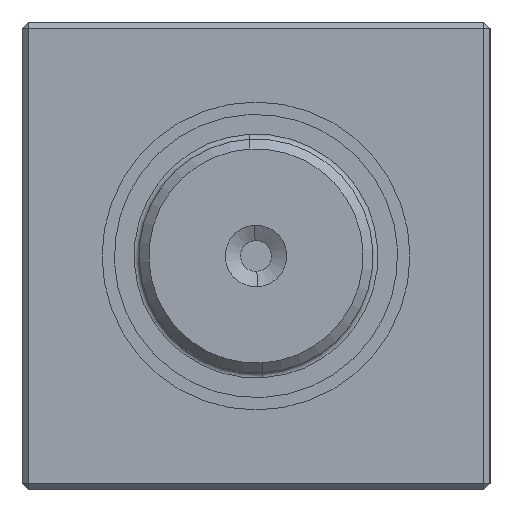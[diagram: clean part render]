
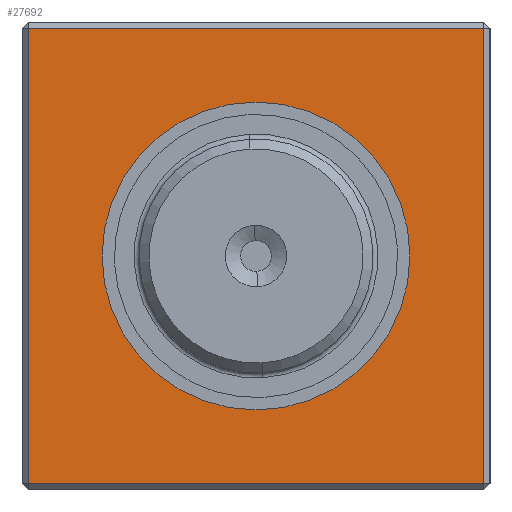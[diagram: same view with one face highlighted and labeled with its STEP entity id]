
A CAD part, left-side view. The second image highlights one B-rep face of the part: STEP entity #27692.
In plain terms, the highlighted planar face has unit normal (-1, 0, 0).
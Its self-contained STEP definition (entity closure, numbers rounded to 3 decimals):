
#2716 = EDGE_LOOP ( 'NONE', ( #27224, #27226, #27225, #27227 ) ) ;
#2717 = EDGE_LOOP ( 'NONE', ( #27229, #27231 ) ) ;
#2995 = VERTEX_POINT ( 'NONE', #29374 ) ;
#2996 = VERTEX_POINT ( 'NONE', #29375 ) ;
#3098 = VERTEX_POINT ( 'NONE', #29477 ) ;
#3099 = VERTEX_POINT ( 'NONE', #29478 ) ;
#3100 = VERTEX_POINT ( 'NONE', #29479 ) ;
#3101 = VERTEX_POINT ( 'NONE', #29480 ) ;
#8386 = CARTESIAN_POINT ( 'NONE',  ( 0., 0., 0. ) ) ;
#8387 = LINE ( 'NONE', #8388, #8861 ) ;
#8388 = CARTESIAN_POINT ( 'NONE',  ( 0., -18.5, 19. ) ) ;
#8389 = DIRECTION ( 'NONE',  ( 0., 0., 1. ) ) ;
#8390 = LINE ( 'NONE', #8391, #8862 ) ;
#8391 = CARTESIAN_POINT ( 'NONE',  ( 0., -19., -18.5 ) ) ;
#8392 = DIRECTION ( 'NONE',  ( 0., -1., 0. ) ) ;
#8393 = LINE ( 'NONE', #8394, #8863 ) ;
#8394 = CARTESIAN_POINT ( 'NONE',  ( 0., -19., 18.5 ) ) ;
#8395 = DIRECTION ( 'NONE',  ( 0., 1., 0. ) ) ;
#8396 = LINE ( 'NONE', #8397, #8864 ) ;
#8397 = CARTESIAN_POINT ( 'NONE',  ( 0., 18.5, 19. ) ) ;
#8398 = DIRECTION ( 'NONE',  ( 0., 0., -1. ) ) ;
#8399 = DIRECTION ( 'NONE',  ( -1., 0., 0. ) ) ;
#8400 = DIRECTION ( 'NONE',  ( 0., -1., 0. ) ) ;
#8860 = AXIS2_PLACEMENT_3D ( 'NONE', #8386, #8399, #8400 ) ;
#8861 = VECTOR ( 'NONE', #8389, 1000. ) ;
#8862 = VECTOR ( 'NONE', #8392, 1000. ) ;
#8863 = VECTOR ( 'NONE', #8395, 1000. ) ;
#8864 = VECTOR ( 'NONE', #8398, 1000. ) ;
#9431 = AXIS2_PLACEMENT_3D ( 'NONE', #10965, #10966, #10967 ) ;
#9636 = FACE_OUTER_BOUND ( 'NONE', #2716, .T. ) ;
#9641 = FACE_BOUND ( 'NONE', #2717, .T. ) ;
#9643 = AXIS2_PLACEMENT_3D ( 'NONE', #11465, #11466, #11467 ) ;
#10965 = CARTESIAN_POINT ( 'NONE',  ( 0., 0., 0. ) ) ;
#10966 = DIRECTION ( 'NONE',  ( -1., 0., 0. ) ) ;
#10967 = DIRECTION ( 'NONE',  ( 0., -1., 0. ) ) ;
#11464 = PLANE ( 'NONE',  #9643 ) ;
#11465 = CARTESIAN_POINT ( 'NONE',  ( 0., -19., 19. ) ) ;
#11466 = DIRECTION ( 'NONE',  ( 1., 0., 0. ) ) ;
#11467 = DIRECTION ( 'NONE',  ( 0., 0., -1. ) ) ;
#26083 = EDGE_CURVE ( 'NONE', #3099, #3100, #8387, .T. ) ;
#26084 = EDGE_CURVE ( 'NONE', #3098, #3099, #8390, .T. ) ;
#26085 = EDGE_CURVE ( 'NONE', #3100, #3101, #8393, .T. ) ;
#26086 = EDGE_CURVE ( 'NONE', #3101, #3098, #8396, .T. ) ;
#26087 = EDGE_CURVE ( 'NONE', #2996, #2995, #41388, .T. ) ;
#26388 = EDGE_CURVE ( 'NONE', #2995, #2996, #41436, .T. ) ;
#27224 = ORIENTED_EDGE ( 'NONE', *, *, #26084, .T. ) ;
#27225 = ORIENTED_EDGE ( 'NONE', *, *, #26085, .T. ) ;
#27226 = ORIENTED_EDGE ( 'NONE', *, *, #26083, .T. ) ;
#27227 = ORIENTED_EDGE ( 'NONE', *, *, #26086, .T. ) ;
#27229 = ORIENTED_EDGE ( 'NONE', *, *, #26087, .F. ) ;
#27231 = ORIENTED_EDGE ( 'NONE', *, *, #26388, .F. ) ;
#27692 = ADVANCED_FACE ( 'NONE', ( #9636, #9641 ), #11464, .F. ) ;
#29374 = CARTESIAN_POINT ( 'NONE',  ( 0., 12.5, 0. ) ) ;
#29375 = CARTESIAN_POINT ( 'NONE',  ( 0., -12.5, 0. ) ) ;
#29477 = CARTESIAN_POINT ( 'NONE',  ( 0., 18.5, -18.5 ) ) ;
#29478 = CARTESIAN_POINT ( 'NONE',  ( 0., -18.5, -18.5 ) ) ;
#29479 = CARTESIAN_POINT ( 'NONE',  ( 0., -18.5, 18.5 ) ) ;
#29480 = CARTESIAN_POINT ( 'NONE',  ( 0., 18.5, 18.5 ) ) ;
#41388 = CIRCLE ( 'NONE', #8860, 12.5 ) ;
#41436 = CIRCLE ( 'NONE', #9431, 12.5 ) ;
